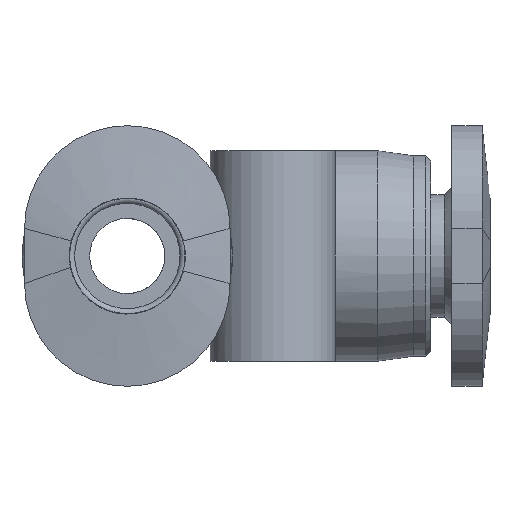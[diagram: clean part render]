
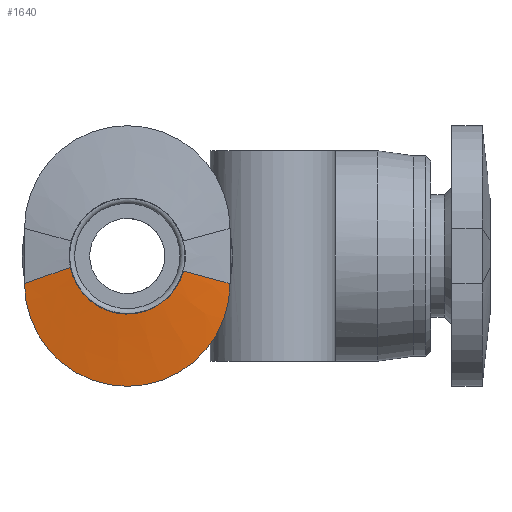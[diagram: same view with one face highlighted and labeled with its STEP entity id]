
A CAD part, left-side view. The second image highlights one B-rep face of the part: STEP entity #1640.
In plain terms, the highlighted free-form (B-spline) face has degree [3, 3] with [4, 22] control points.
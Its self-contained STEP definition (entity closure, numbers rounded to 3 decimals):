
#637=CARTESIAN_POINT('',(-14.47,2.273,-0.452));
#638=VERTEX_POINT('',#637);
#646=CARTESIAN_POINT('',(-14.47,-2.238,-0.601));
#647=VERTEX_POINT('',#646);
#648=CARTESIAN_POINT('',(-14.47,0.,0.));
#649=DIRECTION('',(-1.0,0.0,0.0));
#650=DIRECTION('',(0.0,-1.0,0.0));
#651=AXIS2_PLACEMENT_3D('',#648,#649,#650);
#652=CIRCLE('',#651,2.317);
#653=EDGE_CURVE('',#638,#647,#652,.T.);
#1513=CARTESIAN_POINT('',(-14.156,4.1,-1.1));
#1514=VERTEX_POINT('',#1513);
#1521=CARTESIAN_POINT('',(-14.47,2.273,-0.452));
#1522=CARTESIAN_POINT('',(-14.365,2.882,-0.668));
#1523=CARTESIAN_POINT('',(-14.26,3.491,-0.884));
#1524=CARTESIAN_POINT('',(-14.156,4.1,-1.1));
#1525=QUASI_UNIFORM_CURVE('',3,(#1521,#1522,#1523,#1524),.UNSPECIFIED.,.F.,.U.);
#1526=EDGE_CURVE('',#638,#1514,#1525,.T.);
#1531=CARTESIAN_POINT('',(-14.47,2.273,-0.452));
#1532=CARTESIAN_POINT('',(-14.365,2.882,-0.668));
#1533=CARTESIAN_POINT('',(-14.26,3.491,-0.884));
#1534=CARTESIAN_POINT('',(-14.156,4.1,-1.1));
#1535=CARTESIAN_POINT('',(-14.47,2.268,-0.477));
#1536=CARTESIAN_POINT('',(-14.365,2.879,-0.702));
#1537=CARTESIAN_POINT('',(-14.26,3.489,-0.927));
#1538=CARTESIAN_POINT('',(-14.156,4.1,-1.152));
#1539=CARTESIAN_POINT('',(-14.47,2.248,-0.577));
#1540=CARTESIAN_POINT('',(-14.365,2.865,-0.84));
#1541=CARTESIAN_POINT('',(-14.26,3.482,-1.103));
#1542=CARTESIAN_POINT('',(-14.156,4.1,-1.366));
#1543=CARTESIAN_POINT('',(-14.47,2.173,-0.823));
#1544=CARTESIAN_POINT('',(-14.365,2.794,-1.181));
#1545=CARTESIAN_POINT('',(-14.26,3.416,-1.54));
#1546=CARTESIAN_POINT('',(-14.156,4.037,-1.898));
#1547=CARTESIAN_POINT('',(-14.47,2.05,-1.093));
#1548=CARTESIAN_POINT('',(-14.365,2.656,-1.56));
#1549=CARTESIAN_POINT('',(-14.26,3.263,-2.028));
#1550=CARTESIAN_POINT('',(-14.156,3.87,-2.495));
#1551=CARTESIAN_POINT('',(-14.47,1.895,-1.347));
#1552=CARTESIAN_POINT('',(-14.365,2.469,-1.92));
#1553=CARTESIAN_POINT('',(-14.26,3.044,-2.492));
#1554=CARTESIAN_POINT('',(-14.156,3.619,-3.065));
#1555=CARTESIAN_POINT('',(-14.47,1.718,-1.563));
#1556=CARTESIAN_POINT('',(-14.365,2.246,-2.226));
#1557=CARTESIAN_POINT('',(-14.26,2.774,-2.89));
#1558=CARTESIAN_POINT('',(-14.156,3.301,-3.553));
#1559=CARTESIAN_POINT('',(-14.47,1.547,-1.729));
#1560=CARTESIAN_POINT('',(-14.365,2.024,-2.462));
#1561=CARTESIAN_POINT('',(-14.26,2.5,-3.195));
#1562=CARTESIAN_POINT('',(-14.156,2.977,-3.928));
#1563=CARTESIAN_POINT('',(-14.47,1.357,-1.886));
#1564=CARTESIAN_POINT('',(-14.365,1.773,-2.685));
#1565=CARTESIAN_POINT('',(-14.26,2.19,-3.485));
#1566=CARTESIAN_POINT('',(-14.156,2.606,-4.284));
#1567=CARTESIAN_POINT('',(-14.47,1.085,-2.061));
#1568=CARTESIAN_POINT('',(-14.365,1.409,-2.933));
#1569=CARTESIAN_POINT('',(-14.26,1.733,-3.806));
#1570=CARTESIAN_POINT('',(-14.156,2.057,-4.679));
#1571=CARTESIAN_POINT('',(-14.47,0.711,-2.219));
#1572=CARTESIAN_POINT('',(-14.365,0.902,-3.154));
#1573=CARTESIAN_POINT('',(-14.26,1.094,-4.089));
#1574=CARTESIAN_POINT('',(-14.156,1.285,-5.025));
#1575=CARTESIAN_POINT('',(-14.47,0.305,-2.31));
#1576=CARTESIAN_POINT('',(-14.365,0.349,-3.276));
#1577=CARTESIAN_POINT('',(-14.26,0.393,-4.242));
#1578=CARTESIAN_POINT('',(-14.156,0.437,-5.208));
#1579=CARTESIAN_POINT('',(-14.47,-0.114,-2.327));
#1580=CARTESIAN_POINT('',(-14.365,-0.222,-3.287));
#1581=CARTESIAN_POINT('',(-14.26,-0.329,-4.247));
#1582=CARTESIAN_POINT('',(-14.156,-0.437,-5.208));
#1583=CARTESIAN_POINT('',(-14.47,-0.527,-2.269));
#1584=CARTESIAN_POINT('',(-14.365,-0.779,-3.188));
#1585=CARTESIAN_POINT('',(-14.26,-1.032,-4.106));
#1586=CARTESIAN_POINT('',(-14.156,-1.285,-5.025));
#1587=CARTESIAN_POINT('',(-14.47,-0.913,-2.142));
#1588=CARTESIAN_POINT('',(-14.365,-1.295,-2.988));
#1589=CARTESIAN_POINT('',(-14.26,-1.676,-3.833));
#1590=CARTESIAN_POINT('',(-14.156,-2.057,-4.679));
#1591=CARTESIAN_POINT('',(-14.47,-1.258,-1.959));
#1592=CARTESIAN_POINT('',(-14.365,-1.744,-2.708));
#1593=CARTESIAN_POINT('',(-14.26,-2.23,-3.456));
#1594=CARTESIAN_POINT('',(-14.156,-2.716,-4.205));
#1595=CARTESIAN_POINT('',(-14.47,-1.599,-1.698));
#1596=CARTESIAN_POINT('',(-14.365,-2.174,-2.318));
#1597=CARTESIAN_POINT('',(-14.26,-2.75,-2.938));
#1598=CARTESIAN_POINT('',(-14.156,-3.325,-3.558));
#1599=CARTESIAN_POINT('',(-14.47,-1.891,-1.365));
#1600=CARTESIAN_POINT('',(-14.365,-2.522,-1.832));
#1601=CARTESIAN_POINT('',(-14.26,-3.154,-2.3));
#1602=CARTESIAN_POINT('',(-14.156,-3.785,-2.767));
#1603=CARTESIAN_POINT('',(-14.47,-2.095,-1.011));
#1604=CARTESIAN_POINT('',(-14.365,-2.74,-1.329));
#1605=CARTESIAN_POINT('',(-14.26,-3.385,-1.647));
#1606=CARTESIAN_POINT('',(-14.156,-4.029,-1.965));
#1607=CARTESIAN_POINT('',(-14.47,-2.202,-0.734));
#1608=CARTESIAN_POINT('',(-14.365,-2.835,-0.945));
#1609=CARTESIAN_POINT('',(-14.26,-3.467,-1.156));
#1610=CARTESIAN_POINT('',(-14.156,-4.1,-1.366));
#1611=CARTESIAN_POINT('',(-14.47,-2.231,-0.628));
#1612=CARTESIAN_POINT('',(-14.365,-2.854,-0.803));
#1613=CARTESIAN_POINT('',(-14.26,-3.477,-0.978));
#1614=CARTESIAN_POINT('',(-14.156,-4.1,-1.152));
#1615=CARTESIAN_POINT('',(-14.47,-2.238,-0.601));
#1616=CARTESIAN_POINT('',(-14.365,-2.859,-0.767));
#1617=CARTESIAN_POINT('',(-14.26,-3.479,-0.934));
#1618=CARTESIAN_POINT('',(-14.156,-4.1,-1.1));
#1619=B_SPLINE_SURFACE_WITH_KNOTS('',3,3,((#1531,#1535,#1539,#1543,#1547,#1551,#1555,#1559,#1563,#1567,#1571,#1575,#1579,#1583,#1587,#1591,#1595,#1599,#1603,#1607,#1611,#1615),(#1532,#1536,#1540,#1544,#1548,#1552,#1556,#1560,#1564,#1568,#1572,#1576,#1580,#1584,#1588,#1592,#1596,#1600,#1604,#1608,#1612,#1616),(#1533,#1537,#1541,#1545,#1549,#1553,#1557,#1561,#1565,#1569,#1573,#1577,#1581,#1585,#1589,#1593,#1597,#1601,#1605,#1609,#1613,#1617),(#1534,#1538,#1542,#1546,#1550,#1554,#1558,#1562,#1566,#1570,#1574,#1578,#1582,#1586,#1590,#1594,#1598,#1602,#1606,#1610,#1614,#1618)),.UNSPECIFIED.,.F.,.F.,.U.,(4,4),(4,1,1,1,1,1,1,1,1,1,1,1,1,1,1,1,1,1,1,4),(0.0,1.0),(0.0,0.071,0.143,0.19,0.238,0.286,0.31,0.333,0.381,0.429,0.476,0.524,0.571,0.619,0.667,0.714,0.786,0.857,0.929,1.0),.UNSPECIFIED.);
#1620=ORIENTED_EDGE('',*,*,#653,.F.);
#1621=ORIENTED_EDGE('',*,*,#1526,.T.);
#1622=CARTESIAN_POINT('',(-14.156,-4.1,-1.1));
#1623=VERTEX_POINT('',#1622);
#1624=CARTESIAN_POINT('',(-14.156,0.,-1.1));
#1625=DIRECTION('',(-1.0,0.0,0.0));
#1626=DIRECTION('',(0.0,1.0,0.0));
#1627=AXIS2_PLACEMENT_3D('',#1624,#1625,#1626);
#1628=CIRCLE('',#1627,4.1);
#1629=EDGE_CURVE('',#1514,#1623,#1628,.T.);
#1630=ORIENTED_EDGE('',*,*,#1629,.T.);
#1631=CARTESIAN_POINT('',(-14.47,-2.238,-0.601));
#1632=CARTESIAN_POINT('',(-14.365,-2.859,-0.767));
#1633=CARTESIAN_POINT('',(-14.26,-3.479,-0.934));
#1634=CARTESIAN_POINT('',(-14.156,-4.1,-1.1));
#1635=QUASI_UNIFORM_CURVE('',3,(#1631,#1632,#1633,#1634),.UNSPECIFIED.,.F.,.U.);
#1636=EDGE_CURVE('',#647,#1623,#1635,.T.);
#1637=ORIENTED_EDGE('',*,*,#1636,.F.);
#1638=EDGE_LOOP('',(#1620,#1621,#1630,#1637));
#1639=FACE_OUTER_BOUND('',#1638,.T.);
#1640=ADVANCED_FACE('',(#1639),#1619,.T.);
